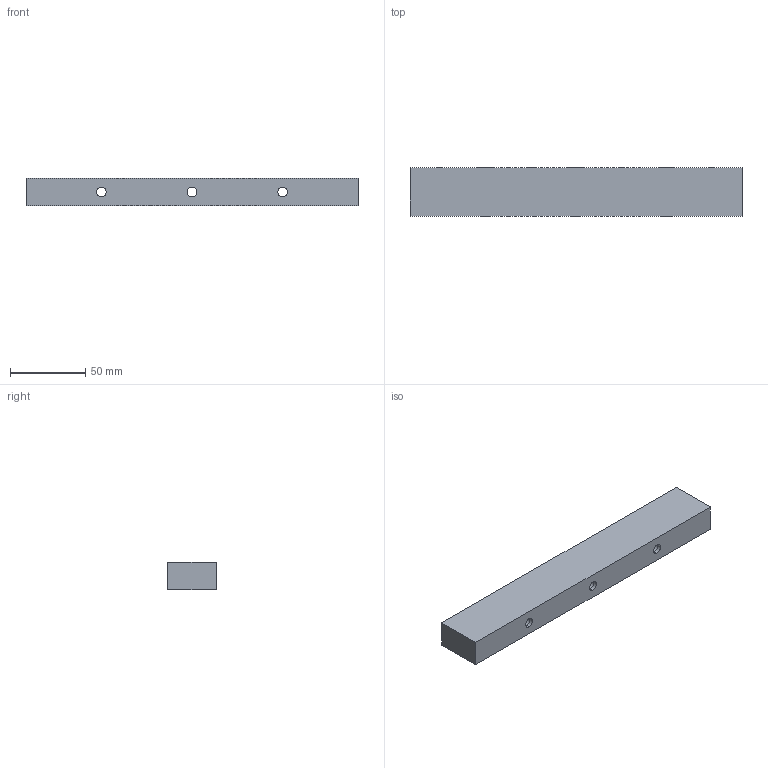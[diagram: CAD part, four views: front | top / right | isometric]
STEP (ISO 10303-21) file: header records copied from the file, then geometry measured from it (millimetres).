
FILE_DESCRIPTION(('CATIA V5 STEP Exchange'),'2;1');
FILE_NAME('D:\姚明阳\1、工装图纸\AGZ131\AGZ131.02_V1.stp','2025-02-06T03:30:36+00:00',('none'),('none'),'CATIA Version 5 Release 20 GA (IN-10)','CATIA V5 STEP AP203','none');
FILE_SCHEMA(('CONFIG_CONTROL_DESIGN'));
Length unit declared in the file: millimetre
Products named in the file (1): AGZ131.02_V1
Bounding box: 220 x 31.9 x 18 mm (x, y, z)
Volume: 120185.4 mm3; surface area: 25876.8 mm2
Topology: 1 solids, 1 shells, 40 faces, 103 edges, 64 vertices
Faces by surface type: cylinder 23, plane 9, cone 8
Entity records: 1455 total; most frequent: CARTESIAN_POINT 506, ORIENTED_EDGE 190, DIRECTION 155, EDGE_CURVE 95, AXIS2_PLACEMENT_3D 66, VERTEX_POINT 64, EDGE_LOOP 53, VECTOR 52
